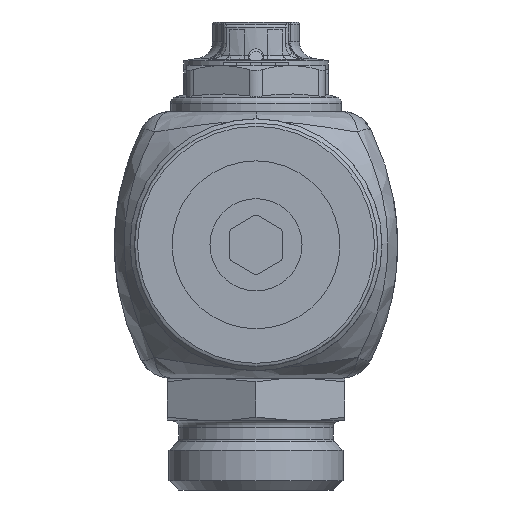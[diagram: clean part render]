
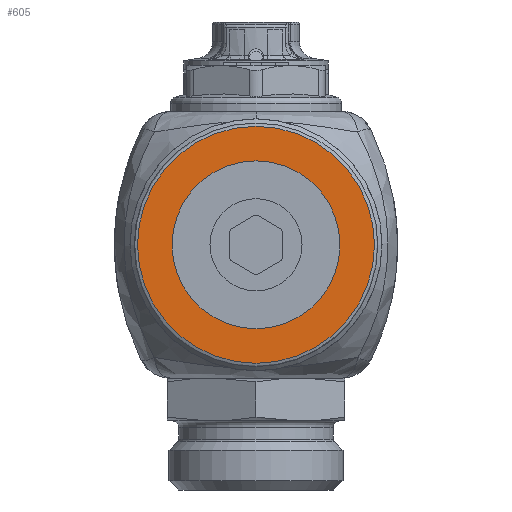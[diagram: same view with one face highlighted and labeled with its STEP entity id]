
A CAD part, front view. The second image highlights one B-rep face of the part: STEP entity #605.
In plain terms, the highlighted planar face has unit normal (0, -1, 0).
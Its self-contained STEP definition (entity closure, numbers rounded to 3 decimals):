
#605=ADVANCED_FACE('',(#15573,#15575),#15577,.F.);
#15573=FACE_BOUND('',#15574,.T.);
#15574=EDGE_LOOP('',(#19475));
#15575=FACE_BOUND('',#15576,.T.);
#15576=EDGE_LOOP('',(#19476));
#15577=PLANE('',#15578);
#15578=AXIS2_PLACEMENT_3D('',#15579,#15580,#15581);
#15579=CARTESIAN_POINT('',(0.,-270.75,0.));
#15580=DIRECTION('',(0.,1.,0.));
#15581=DIRECTION('',(-1.,0.,0.));
#19475=ORIENTED_EDGE('',*,*,#27764,.T.);
#19476=ORIENTED_EDGE('',*,*,#27807,.T.);
#27764=EDGE_CURVE('',#31461,#31461,#31462,.T.);
#27807=EDGE_CURVE('',#31536,#31536,#31537,.F.);
#31461=VERTEX_POINT('',#48378);
#31462=CIRCLE('',#48379,18.);
#31536=VERTEX_POINT('',#48561);
#31537=CIRCLE('',#48562,12.75);
#48378=CARTESIAN_POINT('',(18.,-270.75,0.));
#48379=AXIS2_PLACEMENT_3D('',#48380,#48381,#48382);
#48380=CARTESIAN_POINT('',(0.,-270.75,0.));
#48381=DIRECTION('',(0.,-1.,0.));
#48382=DIRECTION('',(1.,0.,0.));
#48561=CARTESIAN_POINT('',(12.75,-270.75,0.));
#48562=AXIS2_PLACEMENT_3D('',#48563,#48564,#48565);
#48563=CARTESIAN_POINT('',(0.,-270.75,0.));
#48564=DIRECTION('',(0.,-1.,0.));
#48565=DIRECTION('',(1.,0.,0.));
